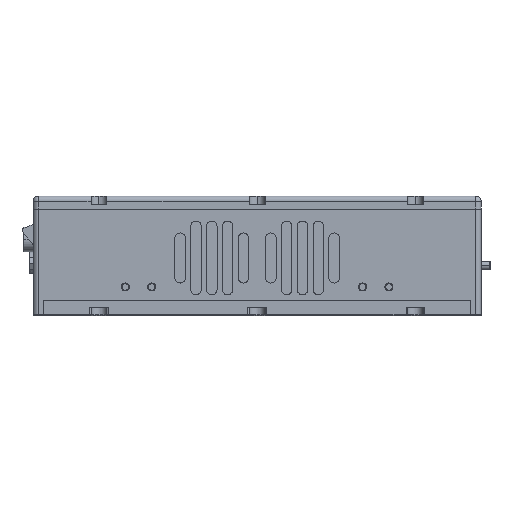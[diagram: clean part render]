
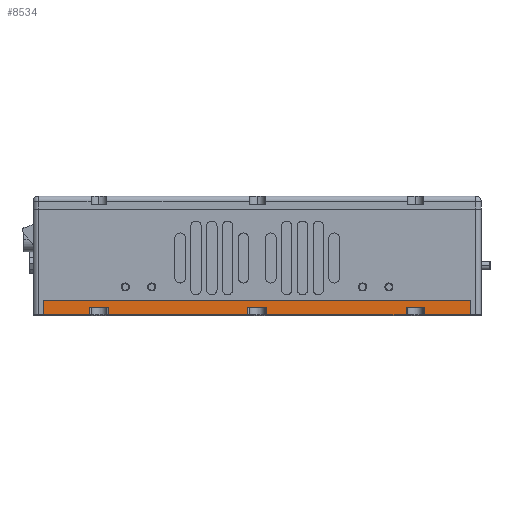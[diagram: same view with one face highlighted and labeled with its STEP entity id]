
A CAD part, left-side view. The second image highlights one B-rep face of the part: STEP entity #8534.
In plain terms, the highlighted planar face has unit normal (-1, 0, 0).
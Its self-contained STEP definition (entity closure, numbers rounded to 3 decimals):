
#87 = CARTESIAN_POINT ( 'NONE',  ( -144.658, 12.7, 204. ) ) ;
#3708 = EDGE_CURVE ( 'NONE', #66326, #50245, #80820, .T. ) ;
#4577 = VERTEX_POINT ( 'NONE', #69026 ) ;
#4860 = DIRECTION ( 'NONE',  ( 0., 0., 1. ) ) ;
#6332 = LINE ( 'NONE', #42416, #25650 ) ;
#6754 = VECTOR ( 'NONE', #19758, 1000. ) ;
#6802 = VERTEX_POINT ( 'NONE', #80107 ) ;
#7353 = VECTOR ( 'NONE', #98317, 1000. ) ;
#7667 = LINE ( 'NONE', #48569, #10273 ) ;
#8218 = VECTOR ( 'NONE', #74463, 1000. ) ;
#8534 = ADVANCED_FACE ( 'NONE', ( #47286 ), #70801, .F. ) ;
#9399 = VECTOR ( 'NONE', #63261, 1000. ) ;
#10062 = CARTESIAN_POINT ( 'NONE',  ( -144.658, 90.2, 198.5 ) ) ;
#10273 = VECTOR ( 'NONE', #89465, 1000. ) ;
#10938 = CARTESIAN_POINT ( 'NONE',  ( -144.658, 5.7, 201.4 ) ) ;
#11385 = DIRECTION ( 'NONE',  ( 0., -1., 0. ) ) ;
#11704 = VECTOR ( 'NONE', #41018, 1000. ) ;
#14164 = LINE ( 'NONE', #61829, #99361 ) ;
#15712 = CARTESIAN_POINT ( 'NONE',  ( -144.658, 90.2, 198.5 ) ) ;
#18721 = DIRECTION ( 'NONE',  ( 0., -1., 0. ) ) ;
#18897 = ORIENTED_EDGE ( 'NONE', *, *, #23442, .T. ) ;
#19758 = DIRECTION ( 'NONE',  ( 0., 1., 0. ) ) ;
#20094 = CARTESIAN_POINT ( 'NONE',  ( -144.658, -54.3, 201.4 ) ) ;
#20142 = CARTESIAN_POINT ( 'NONE',  ( -144.658, 90.2, 201.4 ) ) ;
#20768 = DIRECTION ( 'NONE',  ( 0., 0., -1. ) ) ;
#21304 = EDGE_CURVE ( 'NONE', #60993, #58076, #57091, .T. ) ;
#22220 = DIRECTION ( 'NONE',  ( 1., 0., 0. ) ) ;
#23092 = EDGE_CURVE ( 'NONE', #54276, #6802, #51911, .T. ) ;
#23442 = EDGE_CURVE ( 'NONE', #50245, #104148, #7667, .T. ) ;
#23850 = ORIENTED_EDGE ( 'NONE', *, *, #88645, .T. ) ;
#24362 = VECTOR ( 'NONE', #18721, 1000. ) ;
#25650 = VECTOR ( 'NONE', #66603, 1000. ) ;
#26800 = ORIENTED_EDGE ( 'NONE', *, *, #23092, .T. ) ;
#30110 = VECTOR ( 'NONE', #76081, 1000. ) ;
#30274 = LINE ( 'NONE', #87, #8218 ) ;
#30955 = VERTEX_POINT ( 'NONE', #99417 ) ;
#31300 = DIRECTION ( 'NONE',  ( 0., -1., 0. ) ) ;
#31386 = LINE ( 'NONE', #87801, #9399 ) ;
#31908 = LINE ( 'NONE', #90032, #7353 ) ;
#33091 = DIRECTION ( 'NONE',  ( 0., 0., -1. ) ) ;
#34646 = VECTOR ( 'NONE', #31300, 1000. ) ;
#35625 = DIRECTION ( 'NONE',  ( 0., 1., 0. ) ) ;
#39198 = EDGE_CURVE ( 'NONE', #70595, #54294, #46433, .T. ) ;
#39480 = CARTESIAN_POINT ( 'NONE',  ( -144.658, 72.7, 201.4 ) ) ;
#39601 = ORIENTED_EDGE ( 'NONE', *, *, #80876, .F. ) ;
#39646 = CARTESIAN_POINT ( 'NONE',  ( -144.658, 90.2, 204. ) ) ;
#39780 = EDGE_CURVE ( 'NONE', #63832, #104148, #14164, .T. ) ;
#40377 = AXIS2_PLACEMENT_3D ( 'NONE', #51418, #22220, #35625 ) ;
#41018 = DIRECTION ( 'NONE',  ( 0., -1., 0. ) ) ;
#41382 = LINE ( 'NONE', #73904, #11704 ) ;
#41953 = EDGE_LOOP ( 'NONE', ( #52763, #23850, #61035, #98638, #26800, #67383, #66093, #61611, #42880, #18897, #86671, #102984, #49847, #39601, #79793, #81790 ) ) ;
#42416 = CARTESIAN_POINT ( 'NONE',  ( -144.658, 90.2, 201.4 ) ) ;
#42880 = ORIENTED_EDGE ( 'NONE', *, *, #3708, .T. ) ;
#44076 = EDGE_CURVE ( 'NONE', #30955, #101356, #41382, .T. ) ;
#46433 = LINE ( 'NONE', #10062, #24362 ) ;
#46919 = LINE ( 'NONE', #84326, #30110 ) ;
#47032 = VERTEX_POINT ( 'NONE', #66557 ) ;
#47286 = FACE_OUTER_BOUND ( 'NONE', #41953, .T. ) ;
#47880 = CARTESIAN_POINT ( 'NONE',  ( -144.658, 90.2, 198.5 ) ) ;
#48569 = CARTESIAN_POINT ( 'NONE',  ( -144.658, -47.3, 204. ) ) ;
#48813 = LINE ( 'NONE', #39646, #34646 ) ;
#49847 = ORIENTED_EDGE ( 'NONE', *, *, #44076, .T. ) ;
#50245 = VERTEX_POINT ( 'NONE', #101770 ) ;
#50577 = CARTESIAN_POINT ( 'NONE',  ( -144.658, -71.8, 198.5 ) ) ;
#51418 = CARTESIAN_POINT ( 'NONE',  ( -144.658, 90.2, 204. ) ) ;
#51911 = LINE ( 'NONE', #47880, #96837 ) ;
#51950 = LINE ( 'NONE', #90806, #98365 ) ;
#52763 = ORIENTED_EDGE ( 'NONE', *, *, #39198, .T. ) ;
#54270 = DIRECTION ( 'NONE',  ( 0., 1., 0. ) ) ;
#54276 = VERTEX_POINT ( 'NONE', #81944 ) ;
#54294 = VERTEX_POINT ( 'NONE', #57039 ) ;
#55182 = LINE ( 'NONE', #87164, #93883 ) ;
#57039 = CARTESIAN_POINT ( 'NONE',  ( -144.658, 72.7, 198.5 ) ) ;
#57091 = LINE ( 'NONE', #20142, #6754 ) ;
#57676 = EDGE_CURVE ( 'NONE', #87451, #81523, #6332, .T. ) ;
#58076 = VERTEX_POINT ( 'NONE', #39480 ) ;
#60993 = VERTEX_POINT ( 'NONE', #63049 ) ;
#61035 = ORIENTED_EDGE ( 'NONE', *, *, #21304, .F. ) ;
#61611 = ORIENTED_EDGE ( 'NONE', *, *, #81050, .T. ) ;
#61829 = CARTESIAN_POINT ( 'NONE',  ( -144.658, 90.2, 201.4 ) ) ;
#63049 = CARTESIAN_POINT ( 'NONE',  ( -144.658, 65.7, 201.4 ) ) ;
#63261 = DIRECTION ( 'NONE',  ( 0., 0., -1. ) ) ;
#63832 = VERTEX_POINT ( 'NONE', #20094 ) ;
#64513 = EDGE_CURVE ( 'NONE', #4577, #70595, #31386, .T. ) ;
#65416 = LINE ( 'NONE', #103052, #106671 ) ;
#66093 = ORIENTED_EDGE ( 'NONE', *, *, #57676, .F. ) ;
#66326 = VERTEX_POINT ( 'NONE', #100198 ) ;
#66557 = CARTESIAN_POINT ( 'NONE',  ( -144.658, -71.8, 204. ) ) ;
#66603 = DIRECTION ( 'NONE',  ( 0., 1., 0. ) ) ;
#67383 = ORIENTED_EDGE ( 'NONE', *, *, #83989, .T. ) ;
#69026 = CARTESIAN_POINT ( 'NONE',  ( -144.658, 90.2, 204. ) ) ;
#69281 = DIRECTION ( 'NONE',  ( 0., -1., 0. ) ) ;
#69411 = CARTESIAN_POINT ( 'NONE',  ( -144.658, 90.2, 198.5 ) ) ;
#70431 = VECTOR ( 'NONE', #11385, 1000. ) ;
#70540 = EDGE_CURVE ( 'NONE', #4577, #47032, #48813, .T. ) ;
#70595 = VERTEX_POINT ( 'NONE', #15712 ) ;
#70801 = PLANE ( 'NONE',  #40377 ) ;
#73904 = CARTESIAN_POINT ( 'NONE',  ( -144.658, 90.2, 198.5 ) ) ;
#74463 = DIRECTION ( 'NONE',  ( 0., 0., 1. ) ) ;
#75762 = EDGE_CURVE ( 'NONE', #63832, #30955, #51950, .T. ) ;
#76081 = DIRECTION ( 'NONE',  ( 0., 0., -1. ) ) ;
#79793 = ORIENTED_EDGE ( 'NONE', *, *, #70540, .F. ) ;
#80107 = CARTESIAN_POINT ( 'NONE',  ( -144.658, 12.7, 198.5 ) ) ;
#80820 = LINE ( 'NONE', #69411, #70431 ) ;
#80876 = EDGE_CURVE ( 'NONE', #47032, #101356, #46919, .T. ) ;
#81050 = EDGE_CURVE ( 'NONE', #87451, #66326, #65416, .T. ) ;
#81523 = VERTEX_POINT ( 'NONE', #100250 ) ;
#81790 = ORIENTED_EDGE ( 'NONE', *, *, #64513, .T. ) ;
#81944 = CARTESIAN_POINT ( 'NONE',  ( -144.658, 65.7, 198.5 ) ) ;
#83989 = EDGE_CURVE ( 'NONE', #6802, #81523, #30274, .T. ) ;
#84326 = CARTESIAN_POINT ( 'NONE',  ( -144.658, -71.8, 204. ) ) ;
#86671 = ORIENTED_EDGE ( 'NONE', *, *, #39780, .F. ) ;
#87164 = CARTESIAN_POINT ( 'NONE',  ( -144.658, 72.7, 204. ) ) ;
#87451 = VERTEX_POINT ( 'NONE', #10938 ) ;
#87801 = CARTESIAN_POINT ( 'NONE',  ( -144.658, 90.2, 204. ) ) ;
#88284 = EDGE_CURVE ( 'NONE', #60993, #54276, #31908, .T. ) ;
#88645 = EDGE_CURVE ( 'NONE', #54294, #58076, #55182, .T. ) ;
#89465 = DIRECTION ( 'NONE',  ( 0., 0., 1. ) ) ;
#90032 = CARTESIAN_POINT ( 'NONE',  ( -144.658, 65.7, 204. ) ) ;
#90806 = CARTESIAN_POINT ( 'NONE',  ( -144.658, -54.3, 204. ) ) ;
#93883 = VECTOR ( 'NONE', #4860, 1000. ) ;
#96837 = VECTOR ( 'NONE', #69281, 1000. ) ;
#98317 = DIRECTION ( 'NONE',  ( 0., 0., -1. ) ) ;
#98365 = VECTOR ( 'NONE', #33091, 1000. ) ;
#98638 = ORIENTED_EDGE ( 'NONE', *, *, #88284, .T. ) ;
#99361 = VECTOR ( 'NONE', #54270, 1000. ) ;
#99417 = CARTESIAN_POINT ( 'NONE',  ( -144.658, -54.3, 198.5 ) ) ;
#100198 = CARTESIAN_POINT ( 'NONE',  ( -144.658, 5.7, 198.5 ) ) ;
#100250 = CARTESIAN_POINT ( 'NONE',  ( -144.658, 12.7, 201.4 ) ) ;
#101356 = VERTEX_POINT ( 'NONE', #50577 ) ;
#101730 = CARTESIAN_POINT ( 'NONE',  ( -144.658, -47.3, 201.4 ) ) ;
#101770 = CARTESIAN_POINT ( 'NONE',  ( -144.658, -47.3, 198.5 ) ) ;
#102984 = ORIENTED_EDGE ( 'NONE', *, *, #75762, .T. ) ;
#103052 = CARTESIAN_POINT ( 'NONE',  ( -144.658, 5.7, 204. ) ) ;
#104148 = VERTEX_POINT ( 'NONE', #101730 ) ;
#106671 = VECTOR ( 'NONE', #20768, 1000. ) ;
